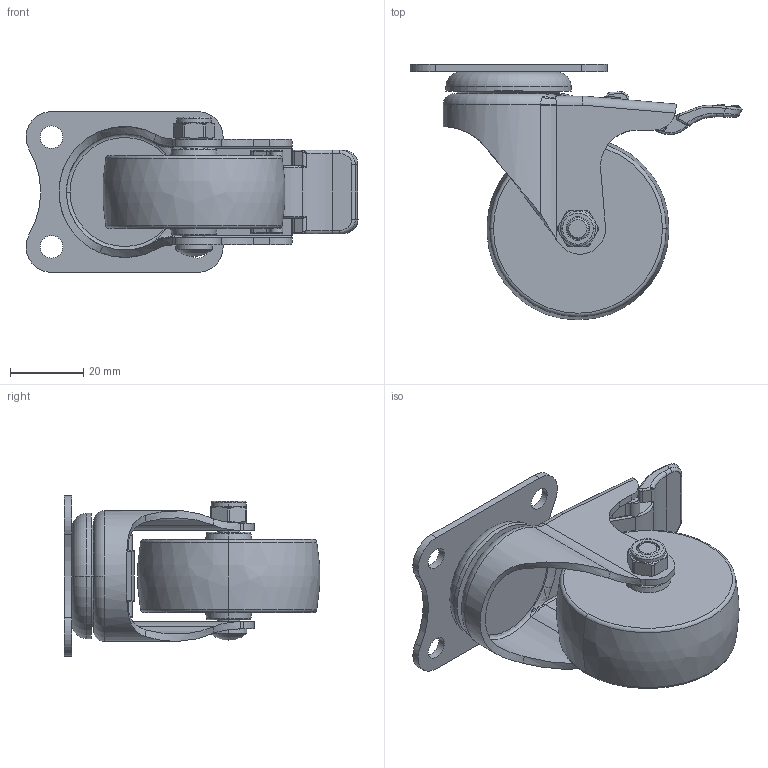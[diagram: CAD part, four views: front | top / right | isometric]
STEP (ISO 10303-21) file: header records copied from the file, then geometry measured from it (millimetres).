
FILE_DESCRIPTION((''),'2;1');
FILE_NAME('261115-2615-83_ASM','2019-12-13T',('L'),(''),'PRO/ENGINEER BY PARAMETRIC TECHNOLOGY CORPORATION, 2010280','PRO/ENGINEER BY PARAMETRIC TECHNOLOGY CORPORATION, 2010280','');
FILE_SCHEMA(('CONFIG_CONTROL_DESIGN'));
Length unit declared in the file: millimetre
Products named in the file (6): 26122; 262-83; 2610-020; 2610-031; 2600-512; 261115-2615-83_ASM
Assembly tree (5 placements, depth 2):
  261115-2615-83_ASM
    26122
    262-83
    2610-020
    2610-031
    2600-512
Bounding box: 90.94 x 69.9 x 44 mm (x, y, z)
Volume: 58967.9 mm3; surface area: 24496.5 mm2
Topology: 5 solids, 5 shells, 322 faces, 774 edges, 467 vertices
Faces by surface type: cylinder 120, plane 87, torus 54, bspline 41, cone 18, sphere 2
Entity records: 11871 total; most frequent: CARTESIAN_POINT 4362, DIRECTION 1588, ORIENTED_EDGE 1536, EDGE_CURVE 768, AXIS2_PLACEMENT_3D 645, VERTEX_POINT 467, CIRCLE 353, EDGE_LOOP 351
